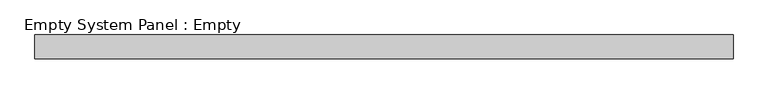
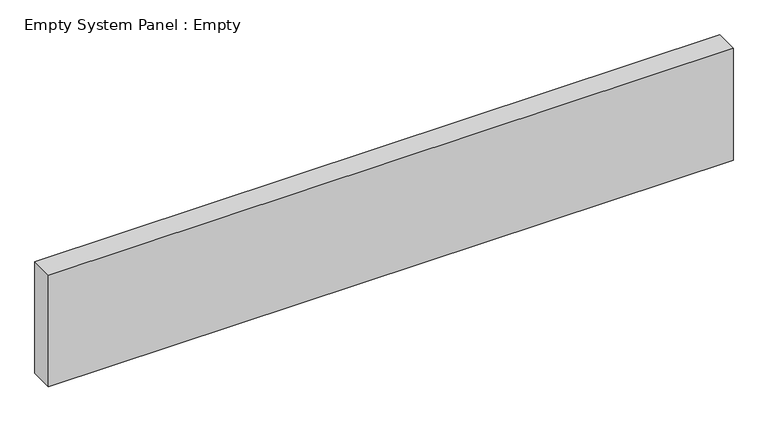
"""IFC4 building model written with IfcOpenShell, lengths in millimetres: plate geometry, Empty System Panel : Empty."""

import ifcopenshell
import ifcopenshell.guid

model = None  # the IFC model being written
_history = None  # IfcOwnerHistory: only IFC2X3 demands one
_inside = {}  # id of a spatial element -> (the spatial element, [elements in it])
_under = {}  # id of a project, library or spatial element -> (it, [spatial elements below it])
_declared = {}  # id of a project -> (the project, [libraries it declares])
_typed = {}  # id of a type object -> (the type object, [elements of that type])
_made_of = {}  # id of a material, layer set ... -> (it, [elements and type objects made of it])


def new_model(schema):
    """Start an empty IFC model of exactly this schema.

    Asked for "IFC4X3", IfcOpenShell would pick the latest addendum, in which some entities
    have other attributes; the version numbers below select the first issue.
    IFC2X3 requires an IfcOwnerHistory on every rooted entity: one is made here for all.
    """
    global model, _history
    if schema == "IFC4X3":
        model = ifcopenshell.file(schema_version=(4, 3, 0, 0))
    else:
        model = ifcopenshell.file(schema=schema)
    _inside.clear()
    _under.clear()
    _declared.clear()
    _typed.clear()
    _made_of.clear()
    _history = None
    if model.schema == "IFC2X3":
        org = make("IfcOrganization", Name="unknown")
        user = make(
            "IfcPersonAndOrganization",
            ThePerson=make("IfcPerson", FamilyName="unknown"),
            TheOrganization=org,
        )
        app = make(
            "IfcApplication",
            ApplicationDeveloper=org,
            Version="unknown",
            ApplicationFullName="unknown",
            ApplicationIdentifier="unknown",
        )
        _history = make(
            "IfcOwnerHistory",
            OwningUser=user,
            OwningApplication=app,
            ChangeAction="ADDED",
            CreationDate=0,
        )
    return model


def make(cls, **values):
    """One entity of the class cls with the attributes given. An attribute that is None is left unset."""
    return model.create_entity(
        cls, **{name: value for name, value in values.items() if value is not None}
    )


def rooted(cls, **values):
    """An entity with a GlobalId (a new one), such as an element, a storey or a relation."""
    return make(cls, GlobalId=ifcopenshell.guid.new(), OwnerHistory=_history, **values)


def si_unit(unit_type, name, prefix=None):
    """IfcSIUnit, for example si_unit("LENGTHUNIT", "METRE", prefix="MILLI")."""
    return make("IfcSIUnit", UnitType=unit_type, Prefix=prefix, Name=name)


def assignment(units):
    """IfcUnitAssignment: the units of a project."""
    return None if units is None else make("IfcUnitAssignment", Units=units)


def point(xyz):
    """IfcCartesianPoint."""
    return None if xyz is None else make("IfcCartesianPoint", Coordinates=xyz)


def direction(xyz):
    """IfcDirection."""
    return None if xyz is None else make("IfcDirection", DirectionRatios=xyz)


def frame(location, z_axis=None, x_axis=None):
    """IfcAxis2Placement3D, a coordinate frame: its origin and axes. An axis left out is left unset."""
    return make(
        "IfcAxis2Placement3D",
        Location=point(location),
        Axis=direction(z_axis),
        RefDirection=direction(x_axis),
    )


def origin():
    """The frame at (0, 0, 0) with its axes left unset."""
    return frame((0.0, 0.0, 0.0))


def origin_with_axes():
    """The frame at (0, 0, 0) with the z axis (0, 0, 1) and the x axis (1, 0, 0) written out."""
    return frame((0.0, 0.0, 0.0), z_axis=(0.0, 0.0, 1.0), x_axis=(1.0, 0.0, 0.0))


def place(relative_to, where):
    """IfcLocalPlacement: puts the frame where relative to a parent placement (None: the world)."""
    return make(
        "IfcLocalPlacement", PlacementRelTo=relative_to, RelativePlacement=where
    )


def context(
    kind, dimensions, precision=None, world=None, true_north=None, identifier=None
):
    """IfcGeometricRepresentationContext, for example the 3D "Model" context."""
    return make(
        "IfcGeometricRepresentationContext",
        ContextIdentifier=identifier,
        ContextType=kind,
        CoordinateSpaceDimension=dimensions,
        Precision=precision,
        WorldCoordinateSystem=world,
        TrueNorth=true_north,
    )


def project(units=None, contexts=None):
    """IfcProject with its units and contexts."""
    return rooted(
        "IfcProject",
        Name="project",
        RepresentationContexts=contexts,
        UnitsInContext=assignment(units),
    )


def spatial(cls, under=None, at=None, **own):
    """A site, building, storey or space (cls), placed at a placement, below another one or the project."""
    s = rooted(cls, ObjectPlacement=at, **own)
    if under is not None:
        _under.setdefault(under.id(), (under, []))[1].append(s)
    return s


def polyline(points):
    """IfcPolyline through the points."""
    return make("IfcPolyline", Points=[point(p) for p in points])


def outline(outer, holes=None, kind="AREA"):
    """IfcArbitraryClosedProfileDef: a profile drawn as a closed curve; with holes, ...WithVoids."""
    if holes is None:
        return make("IfcArbitraryClosedProfileDef", ProfileType=kind, OuterCurve=outer)
    return make(
        "IfcArbitraryProfileDefWithVoids",
        ProfileType=kind,
        OuterCurve=outer,
        InnerCurves=holes,
    )


def extrude(swept, where, along, depth):
    """IfcExtrudedAreaSolid: the profile swept, set in the frame where, extruded along a direction by depth."""
    return make(
        "IfcExtrudedAreaSolid",
        SweptArea=swept,
        Position=where,
        ExtrudedDirection=direction(along),
        Depth=depth,
    )


def shape(context_of_items, identifier, shape_type, items):
    """IfcShapeRepresentation: the items that make up one representation, for example the "Body"."""
    return make(
        "IfcShapeRepresentation",
        ContextOfItems=context_of_items,
        RepresentationIdentifier=identifier,
        RepresentationType=shape_type,
        Items=items,
    )


def source(mapping_origin, context_of_items, identifier, shape_type, items):
    """IfcRepresentationMap: a shape defined once, which mapped items show again and again."""
    return make(
        "IfcRepresentationMap",
        MappingOrigin=mapping_origin,
        MappedRepresentation=shape(context_of_items, identifier, shape_type, items),
    )


def transform(
    local_origin,
    x_axis=None,
    y_axis=None,
    z_axis=None,
    scale=None,
    scale2=None,
    scale3=None,
    uniform=True,
):
    """IfcCartesianTransformationOperator3D, or its non-uniform kind. x_axis, y_axis, z_axis: its Axis1, 2, 3."""
    if uniform:
        return make(
            "IfcCartesianTransformationOperator3D",
            Axis1=direction(x_axis),
            Axis2=direction(y_axis),
            LocalOrigin=point(local_origin),
            Scale=scale,
            Axis3=direction(z_axis),
        )
    return make(
        "IfcCartesianTransformationOperator3DnonUniform",
        Axis1=direction(x_axis),
        Axis2=direction(y_axis),
        LocalOrigin=point(local_origin),
        Scale=scale,
        Axis3=direction(z_axis),
        Scale2=scale2,
        Scale3=scale3,
    )


def mapped(mapping_source, mapping_target):
    """IfcMappedItem: shows the shape of a source again, moved by a transform."""
    return make(
        "IfcMappedItem", MappingSource=mapping_source, MappingTarget=mapping_target
    )


def made_of(thing, what):
    """Note that an element or type object is made of a material, layer set ...; save() writes the relation."""
    if what is not None:
        _made_of.setdefault(what.id(), (what, []))[1].append(thing)
    return thing


def element(
    cls,
    number,
    at=None,
    inside=None,
    cuts=None,
    type_object=None,
    material=None,
    context=None,
    identifier="Body",
    shape_type=None,
    held_by="IfcProductDefinitionShape",
    body=None,
    shapes=None,
    **own,
):
    """One element of the class cls, such as IfcWall. Its Tag is "e" and its number.

    at: its placement. inside: the storey or other place that contains it. cuts: it is an
    opening in that element (IfcRelVoidsElement). A single representation is given by context,
    identifier, shape_type and body (its items); several are given by shapes. held_by: the class
    of the entity that holds the representations. save() writes the other relations.
    """
    e = rooted(cls, Tag="e%d" % number, ObjectPlacement=at, **own)
    if body is not None:
        shapes = [shape(context, identifier, shape_type, body)]
    if shapes is not None:
        e.Representation = make(held_by, Representations=shapes)
    if inside is not None:
        _inside.setdefault(inside.id(), (inside, []))[1].append(e)
    if cuts is not None:
        rooted(
            "IfcRelVoidsElement", RelatingBuildingElement=cuts, RelatedOpeningElement=e
        )
    if type_object is not None:
        _typed.setdefault(type_object.id(), (type_object, []))[1].append(e)
    return made_of(e, material)


def aggregate(whole, parts):
    """IfcRelAggregates: a whole, such as a stair, and the parts it consists of."""
    return rooted("IfcRelAggregates", RelatingObject=whole, RelatedObjects=parts)


def save(model, path):
    """Write the relations noted so far, then the file.

    IfcRelAggregates (storeys below a building ...), IfcRelContainedInSpatialStructure (elements
    in a storey), IfcRelDefinesByType, IfcRelAssociatesMaterial and IfcRelDeclares: one each for
    every whole, place, type object, material and project.
    """
    for whole, parts in _under.values():
        aggregate(whole, parts)
    for where, things in _inside.values():
        rooted(
            "IfcRelContainedInSpatialStructure",
            RelatedElements=things,
            RelatingStructure=where,
        )
    for kind, things in _typed.values():
        rooted("IfcRelDefinesByType", RelatedObjects=things, RelatingType=kind)
    for what, things in _made_of.values():
        rooted("IfcRelAssociatesMaterial", RelatedObjects=things, RelatingMaterial=what)
    for by, libraries in _declared.values():
        rooted("IfcRelDeclares", RelatingContext=by, RelatedDefinitions=libraries)
    model.write(path)


def empty_system_panel_empty_441d4f81(model_context):
    return source(origin(), model_context, "Body", "SweptSolid", [
        extrude(outline(polyline([(1462.5, -50.0), (-1462.5, -50.0), (-1462.5, 50.0), (1462.5, 50.0), (1462.5, -50.0)])), origin_with_axes(), (0.0, 0.0, 1.0), 505.0),
    ])


if __name__ == "__main__":
    model = new_model("IFC4")
    model_context = context("Model", 3, world=origin())
    ifc_project = project(units=[si_unit("LENGTHUNIT", "METRE", prefix="MILLI")], contexts=[model_context])
    site = spatial("IfcSite", under=ifc_project)
    building = spatial("IfcBuilding", under=site)
    placement = place(None, origin())
    empty_system_panel_empty_shape = empty_system_panel_empty_441d4f81(model_context)
    element("IfcPlate", 1, ObjectType="Empty System Panel : Empty", at=placement, inside=building, context=model_context, shape_type="MappedRepresentation", body=[
        mapped(empty_system_panel_empty_shape, transform((0.0, 0.0, 0.0), x_axis=(1.0, 0.0, 0.0), y_axis=(0.0, 1.0, 0.0), z_axis=(0.0, 0.0, 1.0))),
    ])
    save(model, "model.ifc")
